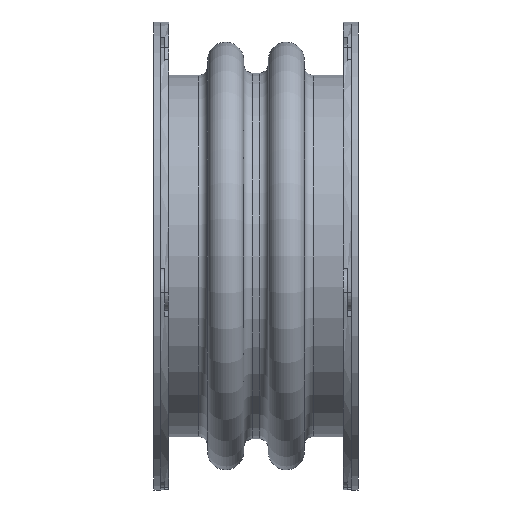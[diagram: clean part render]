
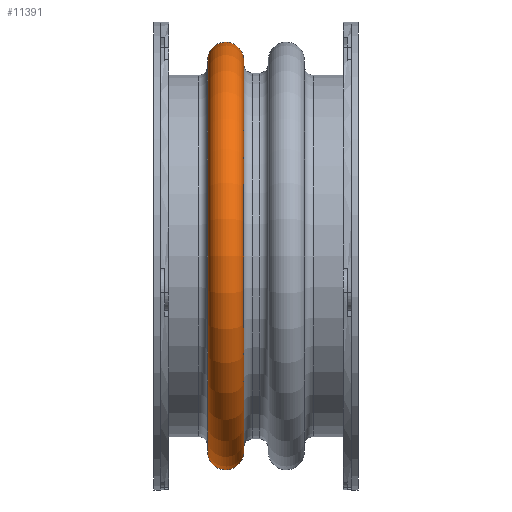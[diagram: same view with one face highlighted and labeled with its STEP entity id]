
A CAD part, front view. The second image highlights one B-rep face of the part: STEP entity #11391.
In plain terms, the highlighted toroidal (fillet/blend) face has major radius 292.1 mm and minor radius 26.988 mm.
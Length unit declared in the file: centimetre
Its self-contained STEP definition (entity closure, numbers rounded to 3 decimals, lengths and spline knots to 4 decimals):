
#27=TOROIDAL_SURFACE('',#12564,29.21,2.6988);
#218=FACE_BOUND('',#1952,.T.);
#1148=FACE_OUTER_BOUND('',#1951,.T.);
#1951=EDGE_LOOP('',(#8771));
#1952=EDGE_LOOP('',(#8772));
#4042=CIRCLE('',#12563,29.266);
#4043=CIRCLE('',#12565,29.266);
#5094=VERTEX_POINT('',#18871);
#5095=VERTEX_POINT('',#18874);
#6426=EDGE_CURVE('',#5094,#5094,#4042,.T.);
#6427=EDGE_CURVE('',#5095,#5095,#4043,.T.);
#8771=ORIENTED_EDGE('',*,*,#6427,.F.);
#8772=ORIENTED_EDGE('',*,*,#6426,.T.);
#11391=ADVANCED_FACE('',(#1148,#218),#27,.T.);
#12563=AXIS2_PLACEMENT_3D('',#18872,#15345,#15346);
#12564=AXIS2_PLACEMENT_3D('',#18873,#15347,#15348);
#12565=AXIS2_PLACEMENT_3D('',#18875,#15349,#15350);
#15345=DIRECTION('center_axis',(1.,0.,0.));
#15346=DIRECTION('ref_axis',(0.,0.,-1.));
#15347=DIRECTION('center_axis',(1.,0.,0.));
#15348=DIRECTION('ref_axis',(0.,0.,-1.));
#15349=DIRECTION('center_axis',(1.,0.,0.));
#15350=DIRECTION('ref_axis',(0.,0.,-1.));
#18871=CARTESIAN_POINT('',(-7.2225,29.266,0.));
#18872=CARTESIAN_POINT('Origin',(-7.2225,0.,
0.));
#18873=CARTESIAN_POINT('Origin',(-4.5244,0.,0.));
#18874=CARTESIAN_POINT('',(-1.8262,29.266,0.));
#18875=CARTESIAN_POINT('Origin',(-1.8262,0.,
0.));
